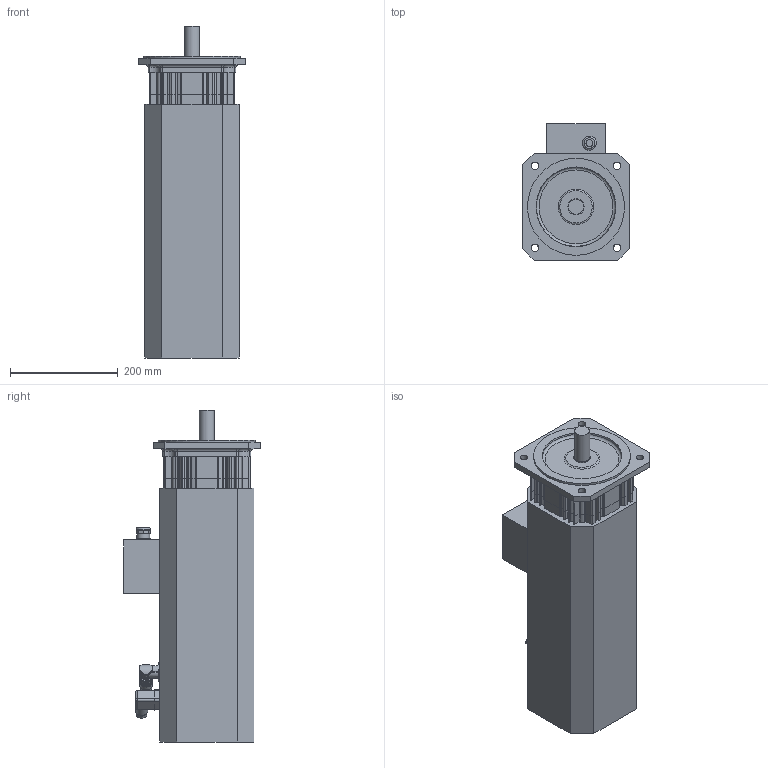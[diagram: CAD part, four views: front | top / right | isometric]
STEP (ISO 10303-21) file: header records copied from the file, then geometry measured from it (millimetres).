
FILE_DESCRIPTION(/* description */ (''),/* implementation_level */ '2;1');
FILE_NAME(/* name */ 'KSA8412_MC_FS_Ix',/* time_stamp */ '2009-03-02T10:20:02+01:00',/* author */ (''),/* organization */ (''),/* preprocessor_version */ 'ST-DEVELOPER v8',/* originating_system */ 'UNIGRAPHICS SOLUTIONS - UNIGRAPHICS 18.0',/* authorisation */ '');
FILE_SCHEMA (('AUTOMOTIVE_DESIGN { 1 2 10303 214 0 1 1 1 }'));
Length unit declared in the file: millimetre
Products named in the file (8): 0280391600_0; Winkelflanschdose_0; 014146_0; 014145_0; Lagersch_8AS_0; 089107X_0; SK3958_0; KSA8412_MC_FS_Ix_0
Assembly tree (7 placements, depth 3):
  KSA8412_MC_FS_Ix_0
    089107X_0
    Lagersch_8AS_0
    SK3958_0
      0280391600_0
    014145_0
    014146_0
    Winkelflanschdose_0
Bounding box: 198 x 253.35 x 616 mm (x, y, z)
Volume: 15580029.4 mm3; surface area: 683841 mm2
Topology: 8 solids, 8 shells, 792 faces, 2199 edges, 1446 vertices
Faces by surface type: cylinder 458, plane 302, torus 16, cone 8, bspline 4, sphere 4
Full cylindrical faces by diameter (mm): 3.2 x1, 3.5 x4, 4.5 x1, 5 x1, 6.5 x4, 10 x1, 13 x2, 14 x4, 16 x1, 17 x1, 20 x3, 21 x1, 21.5 x1, 22.5 x1, 23 x2, 24 x1, 26 x1, 28 x1, 30 x1, 149.6 x2, 151 x1, 180 x1
Entity records: 25928 total; most frequent: CARTESIAN_POINT 5122, DIRECTION 4420, ORIENTED_EDGE 4280, EDGE_CURVE 2140, AXIS2_PLACEMENT_3D 1640, VERTEX_POINT 1435, LINE 1140, VECTOR 1140
